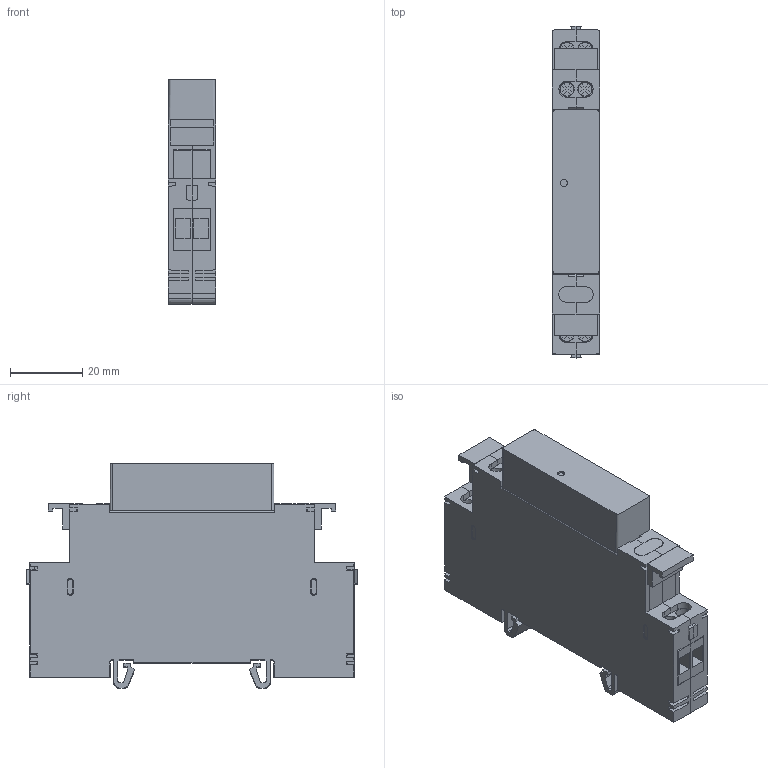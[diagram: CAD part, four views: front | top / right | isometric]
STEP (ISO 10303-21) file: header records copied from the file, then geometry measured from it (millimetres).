
FILE_DESCRIPTION (( 'STEP AP214' ), '1' );
FILE_NAME ('CR16.STEP', '2024-04-17T13:00:47', ( '' ), ( '' ), 'SwSTEP 2.0', 'SolidWorks 2022', '' );
FILE_SCHEMA (( 'AUTOMOTIVE_DESIGN' ));
Length unit declared in the file: millimetre
Products named in the file (1): CR16
Bounding box: 13 x 91.7 x 62.12 mm (x, y, z)
Volume: 54346.1 mm3; surface area: 16063 mm2
Topology: 1 solids, 3 shells, 532 faces, 1373 edges, 874 vertices
Faces by surface type: plane 413, cylinder 83, cone 20, torus 16
Entity records: 16245 total; most frequent: CARTESIAN_POINT 2885, ORIENTED_EDGE 2746, DIRECTION 2625, EDGE_CURVE 1373, LINE 1117, VECTOR 1117, VERTEX_POINT 874, AXIS2_PLACEMENT_3D 754
